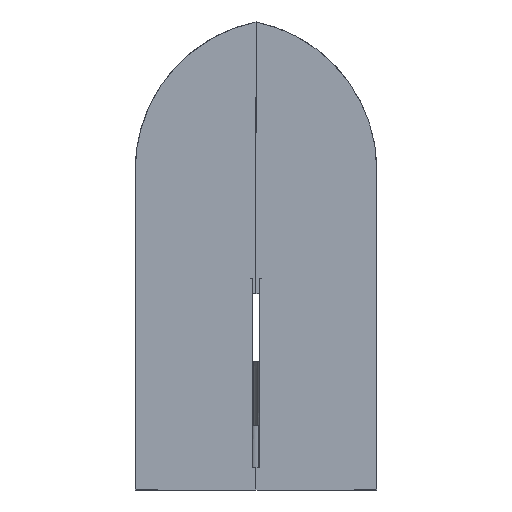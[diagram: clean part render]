
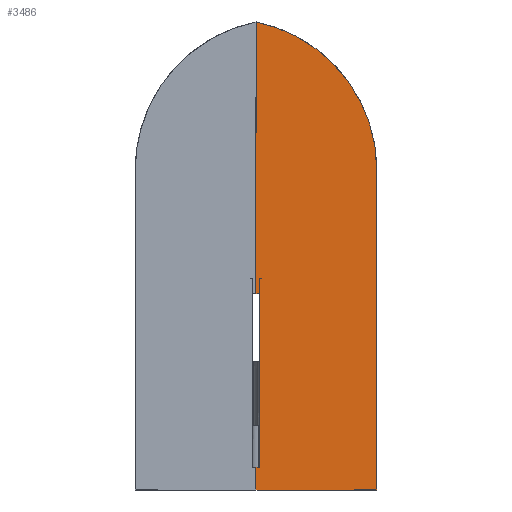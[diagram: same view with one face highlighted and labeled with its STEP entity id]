
A CAD part, left-side view. The second image highlights one B-rep face of the part: STEP entity #3486.
In plain terms, the highlighted planar face has unit normal (-1, 0, 0).
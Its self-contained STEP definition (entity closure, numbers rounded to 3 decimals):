
#90 = VECTOR ( 'NONE', #6436, 1000. ) ;
#653 = CARTESIAN_POINT ( 'NONE',  ( -60., -0.5, -2.916 ) ) ;
#835 = VERTEX_POINT ( 'NONE', #5206 ) ;
#926 = VERTEX_POINT ( 'NONE', #6805 ) ;
#941 = EDGE_CURVE ( 'NONE', #6503, #3797, #5987, .T. ) ;
#942 = VERTEX_POINT ( 'NONE', #3632 ) ;
#1027 = VERTEX_POINT ( 'NONE', #4067 ) ;
#1092 = ORIENTED_EDGE ( 'NONE', *, *, #4227, .T. ) ;
#1124 = EDGE_CURVE ( 'NONE', #835, #6755, #5483, .T. ) ;
#1269 = EDGE_CURVE ( 'NONE', #1027, #942, #6256, .T. ) ;
#1409 = LINE ( 'NONE', #653, #5797 ) ;
#1567 = VECTOR ( 'NONE', #4325, 1000. ) ;
#1690 = DIRECTION ( 'NONE',  ( 0., 0., -1. ) ) ;
#1792 = DIRECTION ( 'NONE',  ( 0., 0., 1. ) ) ;
#1821 = CARTESIAN_POINT ( 'NONE',  ( -60., -0.5, -14. ) ) ;
#1892 = DIRECTION ( 'NONE',  ( -1., 0., 0. ) ) ;
#2039 = VECTOR ( 'NONE', #1690, 1000. ) ;
#2086 = CARTESIAN_POINT ( 'NONE',  ( -60., -8., -14. ) ) ;
#2667 = CARTESIAN_POINT ( 'NONE',  ( -60., 0., 14.186 ) ) ;
#2678 = DIRECTION ( 'NONE',  ( 0., -1., 0. ) ) ;
#2758 = CARTESIAN_POINT ( 'NONE',  ( -60., -8., -17. ) ) ;
#2882 = ORIENTED_EDGE ( 'NONE', *, *, #5158, .F. ) ;
#3085 = ORIENTED_EDGE ( 'NONE', *, *, #6075, .F. ) ;
#3253 = EDGE_CURVE ( 'NONE', #942, #6755, #4179, .T. ) ;
#3355 = LINE ( 'NONE', #2086, #6121 ) ;
#3461 = AXIS2_PLACEMENT_3D ( 'NONE', #6764, #1892, #6790 ) ;
#3486 = ADVANCED_FACE ( 'NONE', ( #6399 ), #6813, .T. ) ;
#3632 = CARTESIAN_POINT ( 'NONE',  ( -60., 0., -17. ) ) ;
#3763 = CARTESIAN_POINT ( 'NONE',  ( -60., -0.249, 9. ) ) ;
#3797 = VERTEX_POINT ( 'NONE', #6353 ) ;
#4016 = VECTOR ( 'NONE', #5822, 1000. ) ;
#4067 = CARTESIAN_POINT ( 'NONE',  ( -60., 0., -14. ) ) ;
#4122 = B_SPLINE_CURVE_WITH_KNOTS ( 'NONE', 3,
 ( #5770, #6315, #5645, #5622 ),
 .UNSPECIFIED., .F., .F.,
 ( 4, 4 ),
 ( 0., 0.027 ),
 .UNSPECIFIED. ) ;
#4149 = CARTESIAN_POINT ( 'NONE',  ( -60., 0., 9. ) ) ;
#4156 = CARTESIAN_POINT ( 'NONE',  ( -60., 0., 27.108 ) ) ;
#4179 = LINE ( 'NONE', #2758, #5460 ) ;
#4227 = EDGE_CURVE ( 'NONE', #835, #3797, #4122, .T. ) ;
#4298 = DIRECTION ( 'NONE',  ( 0., 1., 0. ) ) ;
#4307 = CARTESIAN_POINT ( 'NONE',  ( -60., -16., -17. ) ) ;
#4325 = DIRECTION ( 'NONE',  ( 0., 1., 0. ) ) ;
#4471 = ORIENTED_EDGE ( 'NONE', *, *, #1124, .F. ) ;
#4499 = LINE ( 'NONE', #3763, #1567 ) ;
#4779 = ORIENTED_EDGE ( 'NONE', *, *, #1269, .T. ) ;
#4932 = ORIENTED_EDGE ( 'NONE', *, *, #5968, .T. ) ;
#4985 = ORIENTED_EDGE ( 'NONE', *, *, #941, .F. ) ;
#5158 = EDGE_CURVE ( 'NONE', #5193, #926, #1409, .T. ) ;
#5193 = VERTEX_POINT ( 'NONE', #1821 ) ;
#5206 = CARTESIAN_POINT ( 'NONE',  ( -60., -16., 25.404 ) ) ;
#5246 = ORIENTED_EDGE ( 'NONE', *, *, #3253, .T. ) ;
#5460 = VECTOR ( 'NONE', #2678, 1000. ) ;
#5466 = CARTESIAN_POINT ( 'NONE',  ( -60., -16., 4.202 ) ) ;
#5483 = LINE ( 'NONE', #5466, #4016 ) ;
#5622 = CARTESIAN_POINT ( 'NONE',  ( -60., 0., 45. ) ) ;
#5645 = CARTESIAN_POINT ( 'NONE',  ( -60., -9.312, 43.099 ) ) ;
#5770 = CARTESIAN_POINT ( 'NONE',  ( -60., -16., 25.404 ) ) ;
#5797 = VECTOR ( 'NONE', #1792, 1000. ) ;
#5822 = DIRECTION ( 'NONE',  ( 0., 0., -1. ) ) ;
#5968 = EDGE_CURVE ( 'NONE', #5193, #1027, #3355, .T. ) ;
#5987 = LINE ( 'NONE', #4156, #90 ) ;
#6075 = EDGE_CURVE ( 'NONE', #926, #6503, #4499, .T. ) ;
#6121 = VECTOR ( 'NONE', #4298, 1000. ) ;
#6256 = LINE ( 'NONE', #2667, #2039 ) ;
#6258 = EDGE_LOOP ( 'NONE', ( #5246, #4471, #1092, #4985, #3085, #2882, #4932, #4779 ) ) ;
#6315 = CARTESIAN_POINT ( 'NONE',  ( -60., -16., 34.908 ) ) ;
#6353 = CARTESIAN_POINT ( 'NONE',  ( -60., 0., 45. ) ) ;
#6399 = FACE_OUTER_BOUND ( 'NONE', #6258, .T. ) ;
#6436 = DIRECTION ( 'NONE',  ( 0., 0., 1. ) ) ;
#6503 = VERTEX_POINT ( 'NONE', #4149 ) ;
#6755 = VERTEX_POINT ( 'NONE', #4307 ) ;
#6764 = CARTESIAN_POINT ( 'NONE',  ( -60., -16., -17. ) ) ;
#6790 = DIRECTION ( 'NONE',  ( 0., 0., 1. ) ) ;
#6805 = CARTESIAN_POINT ( 'NONE',  ( -60., -0.5, 9. ) ) ;
#6813 = PLANE ( 'NONE',  #3461 ) ;
